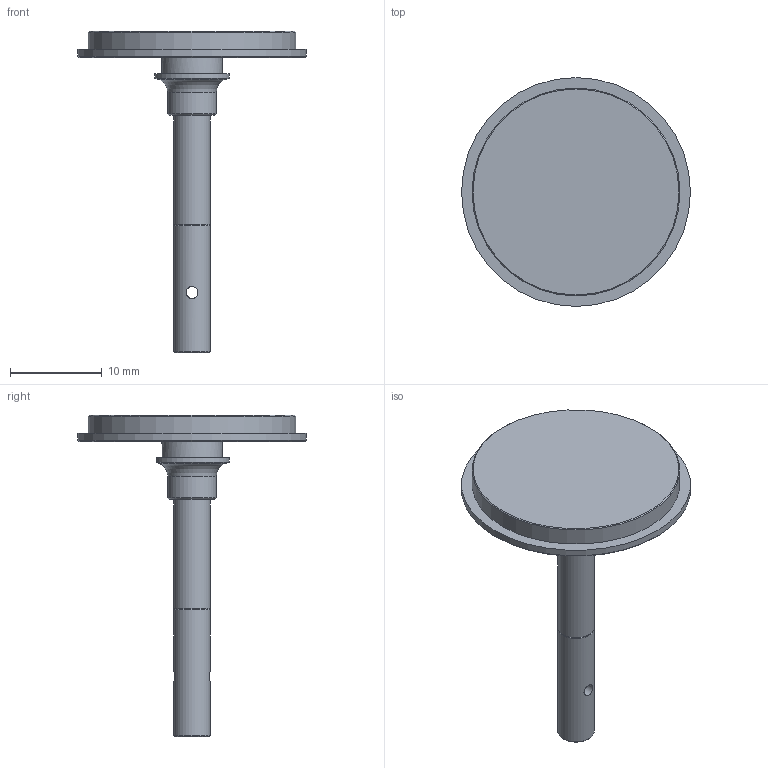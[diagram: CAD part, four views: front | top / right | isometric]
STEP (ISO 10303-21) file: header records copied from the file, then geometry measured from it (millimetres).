
FILE_DESCRIPTION(/* description */ (''),/* implementation_level */ '2;1');
FILE_NAME(/* name */ 'LA-2237-0180#-D.stp',/* time_stamp */ '2012-09-07T08:28:14+01:00',/* author */ (''),/* organization */ (''),/* preprocessor_version */ 'ST-DEVELOPER v11',/* originating_system */ 'SIEMENS PLM Software NX 7.5',/* authorisation */ '');
FILE_SCHEMA (('AUTOMOTIVE_DESIGN { 1 0 10303 214 1 1 1 1 }'));
Length unit declared in the file: millimetre
Products named in the file (1): rt13371Ayusd
Bounding box: 25 x 25 x 35.15 mm (x, y, z)
Volume: 1574.8 mm3; surface area: 1716.8 mm2
Topology: 1 solids, 1 shells, 41 faces, 152 edges, 124 vertices
Faces by surface type: plane 16, cylinder 12, cone 11, torus 2
Full cylindrical faces by diameter (mm): 1.31 x1, 2.594 x1, 3.975 x1, 4 x1, 5.3 x1, 6.6 x1, 22.7 x1, 25 x1
Entity records: 2042 total; most frequent: CARTESIAN_POINT 576, ORIENTED_EDGE 244, DIRECTION 193, EDGE_CURVE 122, VERTEX_POINT 116, AXIS2_PLACEMENT_3D 77, EDGE_LOOP 75, FACE_BOUND 62
